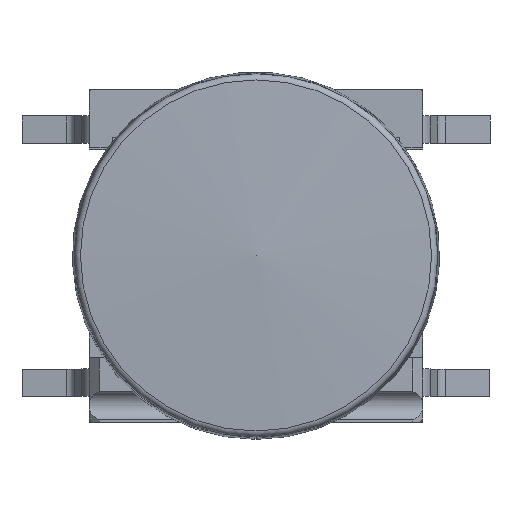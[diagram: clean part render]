
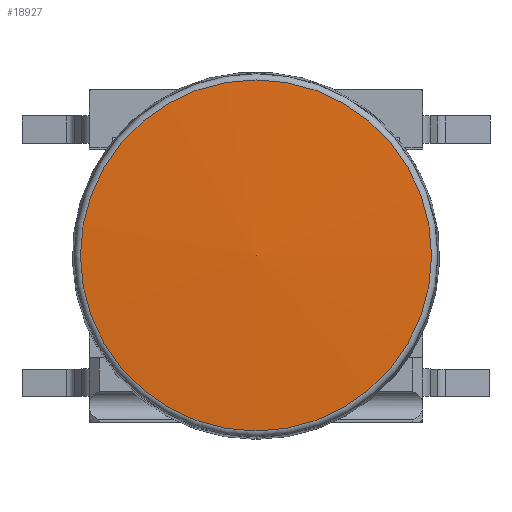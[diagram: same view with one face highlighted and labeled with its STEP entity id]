
A CAD part, top view. The second image highlights one B-rep face of the part: STEP entity #18927.
In plain terms, the highlighted spherical face has radius 60 mm.
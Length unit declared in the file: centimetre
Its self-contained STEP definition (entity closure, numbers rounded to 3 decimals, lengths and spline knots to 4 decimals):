
#12=SPHERICAL_SURFACE($,#19993,6.);
#1130=FACE_OUTER_BOUND($,#2114,.T.);
#2114=EDGE_LOOP($,(#12341));
#6618=CIRCLE($,#19994,0.5271);
#7257=VERTEX_POINT($,#28694);
#9221=EDGE_CURVE($,#7257,#7257,#6618,.T.);
#12341=ORIENTED_EDGE($,*,*,#9221,.T.);
#18927=ADVANCED_FACE($,(#1130),#12,.T.);
#19993=AXIS2_PLACEMENT_3D($,#28693,#21756,#21757);
#19994=AXIS2_PLACEMENT_3D($,#28695,#21758,#21759);
#21756=DIRECTION('center_axis',(0.,0.,
-1.));
#21757=DIRECTION('ref_axis',(1.,0.,0.));
#21758=DIRECTION('center_axis',(0.,0.,
1.));
#21759=DIRECTION('ref_axis',(0.,1.,0.));
#28693=CARTESIAN_POINT('Origin',(0.,0.,
-5.149));
#28694=CARTESIAN_POINT('',(0.,-0.5271,0.8278));
#28695=CARTESIAN_POINT('Origin',(0.,0.,
0.8278));
